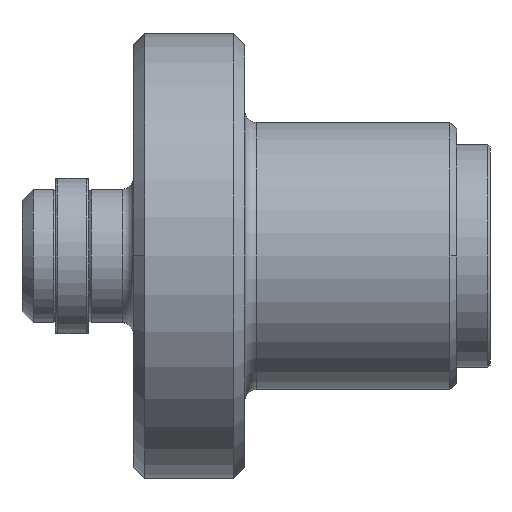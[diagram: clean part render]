
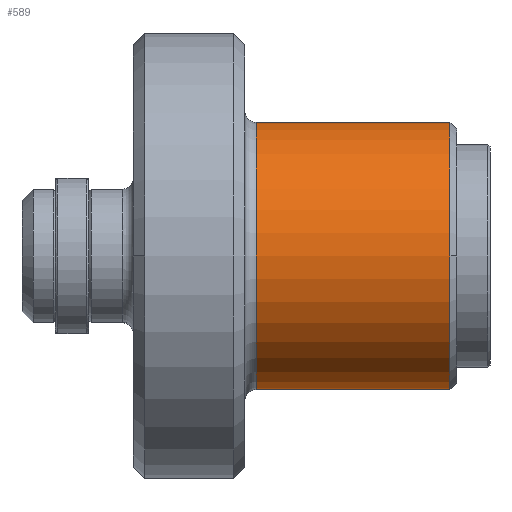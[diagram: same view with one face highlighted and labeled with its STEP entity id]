
A CAD part, left-side view. The second image highlights one B-rep face of the part: STEP entity #589.
In plain terms, the highlighted cylindrical face has radius 6 mm (diameter 12 mm), a partial arc.
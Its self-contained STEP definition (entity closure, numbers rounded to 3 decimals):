
#164 = VERTEX_POINT ( 'NONE', #1934 ) ;
#220 = DIRECTION ( 'NONE',  ( 0., 1., 0. ) ) ;
#239 = FACE_OUTER_BOUND ( 'NONE', #835, .T. ) ;
#253 = DIRECTION ( 'NONE',  ( 0., 0., 1. ) ) ;
#322 = AXIS2_PLACEMENT_3D ( 'NONE', #386, #1935, #624 ) ;
#348 = CYLINDRICAL_SURFACE ( 'NONE', #575, 6. ) ;
#386 = CARTESIAN_POINT ( 'NONE',  ( 0., 1.8, 0. ) ) ;
#409 = DIRECTION ( 'NONE',  ( 0., 1., 0. ) ) ;
#467 = LINE ( 'NONE', #1799, #2016 ) ;
#520 = DIRECTION ( 'NONE',  ( 0., 1., 0. ) ) ;
#575 = AXIS2_PLACEMENT_3D ( 'NONE', #1810, #2245, #253 ) ;
#589 = ADVANCED_FACE ( 'NONE', ( #239 ), #348, .T. ) ;
#595 = CIRCLE ( 'NONE', #1198, 6. ) ;
#624 = DIRECTION ( 'NONE',  ( 0., 0., 1. ) ) ;
#644 = EDGE_CURVE ( 'NONE', #2373, #2312, #2035, .T. ) ;
#721 = CARTESIAN_POINT ( 'NONE',  ( 0., 1.8, 0. ) ) ;
#835 = EDGE_LOOP ( 'NONE', ( #1595, #1204, #1979, #1462, #1157 ) ) ;
#926 = CARTESIAN_POINT ( 'NONE',  ( -6., 1.8, 0. ) ) ;
#953 = DIRECTION ( 'NONE',  ( 0., 0., 1. ) ) ;
#954 = LINE ( 'NONE', #1739, #1319 ) ;
#1157 = ORIENTED_EDGE ( 'NONE', *, *, #1690, .F. ) ;
#1198 = AXIS2_PLACEMENT_3D ( 'NONE', #1837, #520, #2041 ) ;
#1204 = ORIENTED_EDGE ( 'NONE', *, *, #2715, .T. ) ;
#1319 = VECTOR ( 'NONE', #409, 1000. ) ;
#1324 = VERTEX_POINT ( 'NONE', #1498 ) ;
#1462 = ORIENTED_EDGE ( 'NONE', *, *, #1491, .T. ) ;
#1491 = EDGE_CURVE ( 'NONE', #2312, #1992, #954, .T. ) ;
#1498 = CARTESIAN_POINT ( 'NONE',  ( 0., 1.8, -6. ) ) ;
#1595 = ORIENTED_EDGE ( 'NONE', *, *, #1643, .F. ) ;
#1643 = EDGE_CURVE ( 'NONE', #1324, #164, #467, .T. ) ;
#1690 = EDGE_CURVE ( 'NONE', #164, #1992, #595, .T. ) ;
#1739 = CARTESIAN_POINT ( 'NONE',  ( 0., 6.15, 6. ) ) ;
#1799 = CARTESIAN_POINT ( 'NONE',  ( 0., 6.15, -6. ) ) ;
#1810 = CARTESIAN_POINT ( 'NONE',  ( 0., 6.15, 0. ) ) ;
#1837 = CARTESIAN_POINT ( 'NONE',  ( 0., 10.5, 0. ) ) ;
#1934 = CARTESIAN_POINT ( 'NONE',  ( 0., 10.5, -6. ) ) ;
#1935 = DIRECTION ( 'NONE',  ( 0., 1., 0. ) ) ;
#1979 = ORIENTED_EDGE ( 'NONE', *, *, #644, .T. ) ;
#1992 = VERTEX_POINT ( 'NONE', #2171 ) ;
#1998 = CARTESIAN_POINT ( 'NONE',  ( 0., 1.8, 6. ) ) ;
#2016 = VECTOR ( 'NONE', #220, 1000. ) ;
#2035 = CIRCLE ( 'NONE', #322, 6. ) ;
#2041 = DIRECTION ( 'NONE',  ( 0., 0., 1. ) ) ;
#2171 = CARTESIAN_POINT ( 'NONE',  ( 0., 10.5, 6. ) ) ;
#2240 = DIRECTION ( 'NONE',  ( 0., 1., 0. ) ) ;
#2245 = DIRECTION ( 'NONE',  ( 0., 1., 0. ) ) ;
#2306 = CIRCLE ( 'NONE', #2770, 6. ) ;
#2312 = VERTEX_POINT ( 'NONE', #1998 ) ;
#2373 = VERTEX_POINT ( 'NONE', #926 ) ;
#2715 = EDGE_CURVE ( 'NONE', #1324, #2373, #2306, .T. ) ;
#2770 = AXIS2_PLACEMENT_3D ( 'NONE', #721, #2240, #953 ) ;
